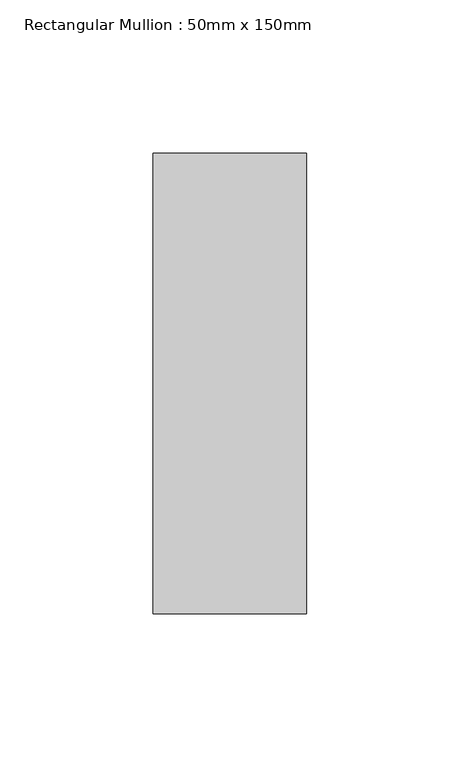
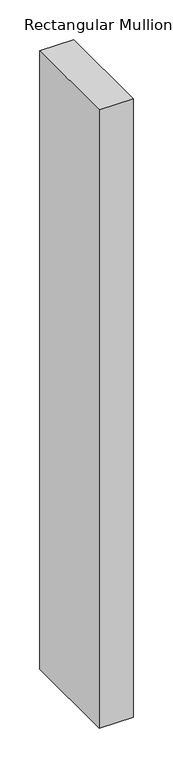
"""IFC4 building model written with IfcOpenShell, lengths in millimetres: member geometry, Rectangular Mullion : 50mm x 150mm."""

from ifc_helpers import new_model, si_unit, frame, origin, place, context, project, spatial, polyline, outline, extrude, source, transform, mapped, element, save


def rectangular_mullion_50mm_x_150mm_37271eec(model_context):
    return source(origin(), model_context, "Body", "SweptSolid", [
        extrude(outline(polyline([(25.0, 75.0), (25.0, -75.0), (-25.0, -75.0), (-25.0, 75.0), (25.0, 75.0)])), frame((0.0, 0.0, -952.9584148), z_axis=(0.0, 0.0, 1.0), x_axis=(1.0, 0.0, 0.0)), (0.0, 0.0, 1.0), 952.9584148),
    ])


if __name__ == "__main__":
    model = new_model("IFC4")
    model_context = context("Model", 3, world=origin())
    ifc_project = project(units=[si_unit("LENGTHUNIT", "METRE", prefix="MILLI")], contexts=[model_context])
    site = spatial("IfcSite", under=ifc_project)
    building = spatial("IfcBuilding", under=site)
    placement = place(None, origin())
    rectangular_mullion_50mm_x_150mm_shape = rectangular_mullion_50mm_x_150mm_37271eec(model_context)
    element("IfcMember", 1, ObjectType="Rectangular Mullion : 50mm x 150mm", at=placement, inside=building, context=model_context, shape_type="MappedRepresentation", body=[
        mapped(rectangular_mullion_50mm_x_150mm_shape, transform((0.0, 0.0, 0.0), x_axis=(1.0, 0.0, 0.0), y_axis=(0.0, 1.0, 0.0), z_axis=(0.0, 0.0, 1.0))),
    ])
    save(model, "model.ifc")
